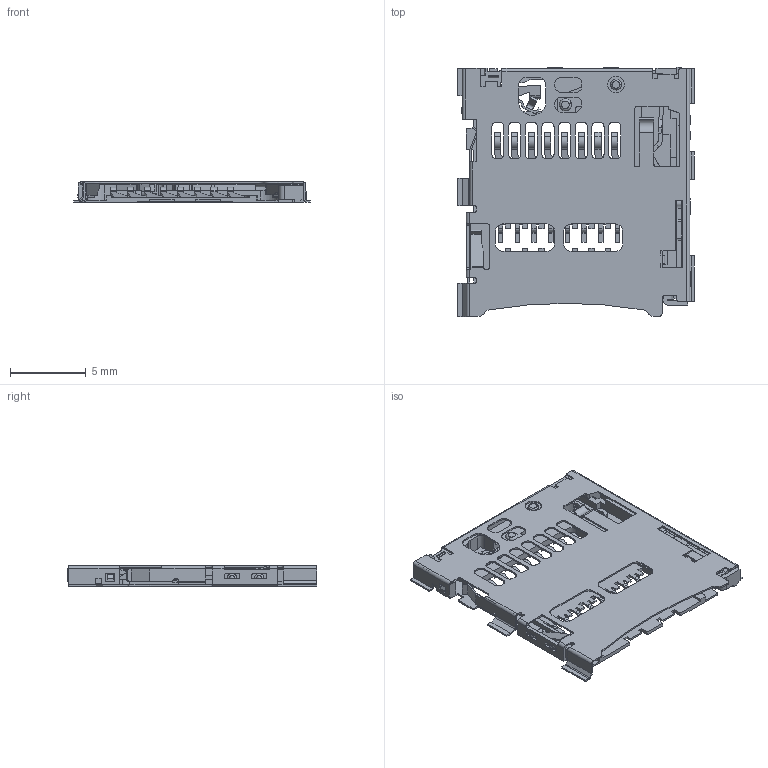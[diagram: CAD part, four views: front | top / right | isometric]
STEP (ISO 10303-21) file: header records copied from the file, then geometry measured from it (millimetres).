
FILE_DESCRIPTION((''),'2;1');
FILE_NAME('5045280892','2017-08-08T',('ghp'),(''),'PRO/ENGINEER BY PARAMETRIC TECHNOLOGY CORPORATION, 2012310','PRO/ENGINEER BY PARAMETRIC TECHNOLOGY CORPORATION, 2012310','');
FILE_SCHEMA(('CONFIG_CONTROL_DESIGN'));
Length unit declared in the file: millimetre
Products named in the file (1): 5045280892
Bounding box: 15.6 x 16.42 x 1.33 mm (x, y, z)
Volume: 99.9 mm3; surface area: 947.6 mm2
Topology: 1 solids, 1 shells, 1150 faces, 3536 edges, 2385 vertices
Faces by surface type: plane 822, cylinder 318, torus 6, bspline 2, sphere 2
Entity records: 39504 total; most frequent: CARTESIAN_POINT 7183, ORIENTED_EDGE 6928, DIRECTION 6504, EDGE_CURVE 3464, VECTOR 2802, LINE 2802, VERTEX_POINT 2313, AXIS2_PLACEMENT_3D 1851
